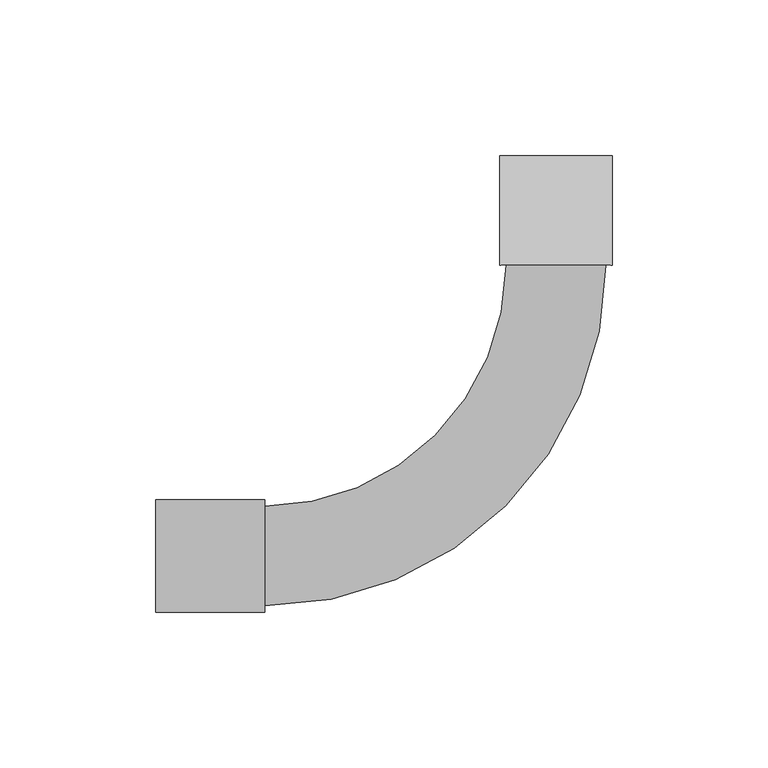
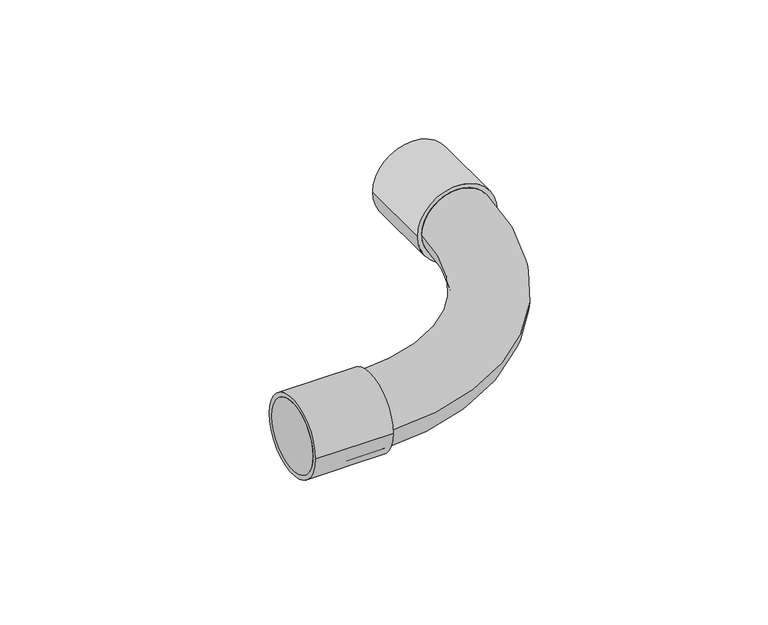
"""IFC4 building model written with IfcOpenShell, lengths in millimetres: cable carrier fitting geometry, Поворот на 90 труба-труба CRSG : Поворот на 90 труба-труба CRSG."""

from ifc_helpers import new_model, si_unit, point, frame, origin, origin_2d, place, context, project, spatial, circle_curve, ellipse_curve, trimmed, segment, composite_curve, outline, extrude, source, transform, mapped, element, save
from ifc_brep_helpers import plane_surface, cylinder_surface, revolved_surface, advanced_brep


def cable_carrier_fitting_13d0f231(model_context):
    return source(origin(), model_context, "Body", "SolidModel", [
        advanced_brep(
        [(-128.27, -15.9893, 0.0), (-128.27, 15.9893, 0.0), (-93.2942, -15.9893, 0.0), (-93.2942, 15.9893, 0.0), (-15.9893, 93.2942, 0.0), (15.9893, 93.2942, 0.0), (15.9893, 128.27, 0.0), (-15.9893, 128.27, 0.0)],
        [
            (0, 1, circle_curve(frame((-128.27, 0.0, 0.0), z_axis=(-1.0, 0.0, 0.0), x_axis=(0.0, 1.0, 0.0)), 15.9893)),
            (1, 0, circle_curve(frame((-128.27, 0.0, 0.0), z_axis=(-1.0, 0.0, 0.0), x_axis=(0.0, 1.0, 0.0)), 15.9893)),
            (0, 2),
            (2, 3, circle_curve(frame((-93.2942, 0.0, 0.0), z_axis=(-1.0, 0.0, 0.0), x_axis=(0.0, 1.0, 0.0)), 15.9893)),
            (3, 1),
            (3, 2, circle_curve(frame((-93.2942, 0.0, 0.0), z_axis=(-1.0, 0.0, 0.0), x_axis=(0.0, 1.0, 0.0)), 15.9893)),
            (4, 3, circle_curve(frame((-93.2942, 93.2942, 0.0), z_axis=(0.0, 0.0, -1.0), x_axis=(0.0, -1.0, 0.0)), 77.3049)),
            (2, 5, circle_curve(frame((-93.2942, 93.2942, 0.0), z_axis=(0.0, 0.0, 1.0), x_axis=(0.0, -1.0, 0.0)), 109.2835)),
            (5, 4, circle_curve(frame((0.0, 93.2942, 0.0), z_axis=(0.0, -1.0, 0.0), x_axis=(-1.0, 0.0, 0.0)), 15.9893)),
            (4, 5, circle_curve(frame((0.0, 93.2942, 0.0), z_axis=(0.0, -1.0, 0.0), x_axis=(-1.0, 0.0, 0.0)), 15.9893)),
            (6, 7, circle_curve(frame((0.0, 128.27, 0.0), z_axis=(0.0, 1.0, 0.0), x_axis=(-1.0, 0.0, 0.0)), 15.9893)),
            (7, 6, circle_curve(frame((0.0, 128.27, 0.0), z_axis=(0.0, 1.0, 0.0), x_axis=(-1.0, 0.0, 0.0)), 15.9893)),
            (5, 6),
            (7, 4),
        ],
        [
            plane_surface(frame((-128.27, 0.0, 0.0), z_axis=(-1.0, 0.0, 0.0), x_axis=(0.0, 0.0, 1.0))),
            cylinder_surface(frame((-128.27, 0.0, 0.0), z_axis=(-1.0, 0.0, 0.0), x_axis=(0.0, 1.0, 0.0)), 15.9893),
            revolved_surface(trimmed(ellipse_curve(frame((-93.2942, 0.0, 0.0), z_axis=(-1.0, 0.0, 0.0), x_axis=(0.0, 1.0, 0.0)), 15.9893, 15.9893), [point((-93.2942, -15.9893, 0.0))], [point((-93.2942, 15.9893, 0.0))], True, "CARTESIAN"), (-93.2942, 93.2942, 0.0), (0.0, 0.0, 1.0)),
            revolved_surface(trimmed(ellipse_curve(frame((-93.2942, 0.0, 0.0), z_axis=(-1.0, 0.0, 0.0), x_axis=(0.0, 1.0, 0.0)), 15.9893, 15.9893), [point((-93.2942, 15.9893, 0.0))], [point((-93.2942, -15.9893, 0.0))], True, "CARTESIAN"), (-93.2942, 93.2942, 0.0), (0.0, 0.0, 1.0)),
            plane_surface(frame((0.0, 128.27, 0.0), z_axis=(0.0, 1.0, 0.0), x_axis=(0.0, 0.0, 1.0))),
            cylinder_surface(frame((0.0, 93.2942, 0.0), z_axis=(0.0, -1.0, 0.0), x_axis=(-1.0, 0.0, 0.0)), 15.9893),
        ],
        [
            (0, [[1, 2]]),
            (1, [[-1, 3, 4, 5]]),
            (1, [[-2, -5, 6, -3]]),
            (2, [[7, -4, 8, 9]]),
            (3, [[-8, -6, -7, 10]]),
            (4, [[11, 12]]),
            (5, [[-9, 13, -12, 14]]),
            (5, [[-10, -14, -11, -13]]),
        ],
    ),
        extrude(outline(composite_curve([segment(trimmed(circle_curve(origin_2d(), 18.0), [point((-18.0, 0.0))], [point((18.0, 0.0))], False, "CARTESIAN"), True, "CONTINUOUS"), segment(trimmed(circle_curve(origin_2d(), 18.0), [point((18.0, 0.0))], [point((-18.0, 0.0))], False, "CARTESIAN"), True, "CONTINUOUS")], self_intersect=False)), frame((-128.27, 0.0, 0.0), z_axis=(1.0, 0.0, 0.0), x_axis=(0.0, 1.0, 0.0)), (0.0, 0.0, 1.0), 34.9758),
        extrude(outline(composite_curve([segment(trimmed(circle_curve(origin_2d(), 18.0), [point((0.0, 18.0))], [point((0.0, -18.0))], False, "CARTESIAN"), True, "CONTINUOUS"), segment(trimmed(circle_curve(origin_2d(), 18.0), [point((0.0, -18.0))], [point((0.0, 18.0))], False, "CARTESIAN"), True, "CONTINUOUS")], self_intersect=False)), frame((0.0, 93.2942, 0.0), z_axis=(0.0, 1.0, 0.0), x_axis=(0.0, 0.0, 1.0)), (0.0, 0.0, 1.0), 34.9758),
    ])


if __name__ == "__main__":
    model = new_model("IFC4")
    model_context = context("Model", 3, world=origin())
    ifc_project = project(units=[si_unit("LENGTHUNIT", "METRE", prefix="MILLI")], contexts=[model_context])
    site = spatial("IfcSite", under=ifc_project)
    building = spatial("IfcBuilding", under=site)
    placement = place(None, origin())
    cable_carrier_fitting_shape = cable_carrier_fitting_13d0f231(model_context)
    element("IfcCableCarrierFitting", 1, ObjectType="Поворот на 90 труба-труба CRSG : Поворот на 90 труба-труба CRSG", at=placement, inside=building, context=model_context, shape_type="MappedRepresentation", body=[
        mapped(cable_carrier_fitting_shape, transform((0.0, 0.0, 0.0), x_axis=(1.0, 0.0, 0.0), y_axis=(0.0, 1.0, 0.0), z_axis=(0.0, 0.0, 1.0))),
    ])
    save(model, "model.ifc")
